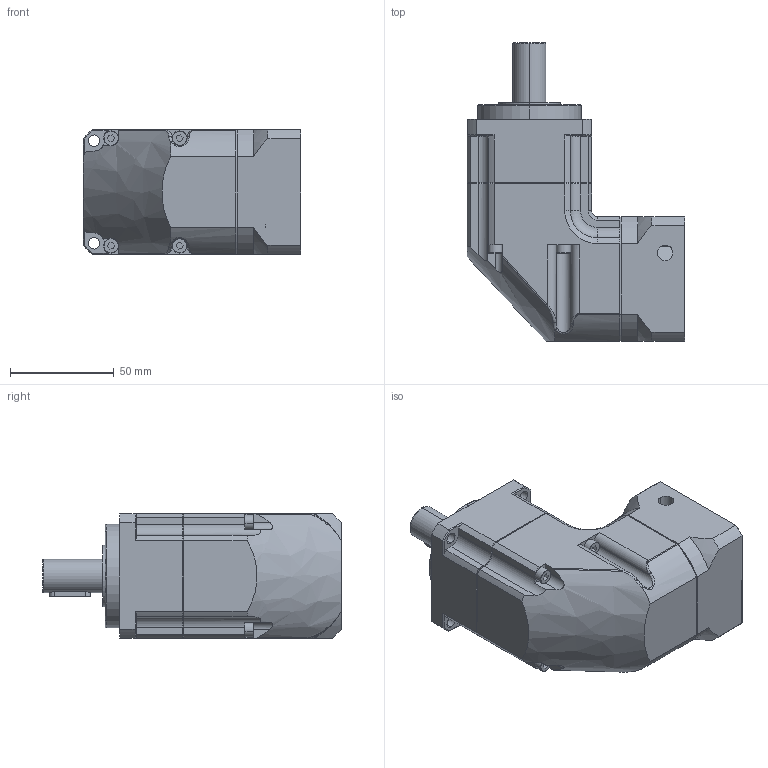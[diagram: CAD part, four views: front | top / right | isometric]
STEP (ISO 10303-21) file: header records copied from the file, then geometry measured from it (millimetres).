
FILE_DESCRIPTION (( 'STEP AP214' ), '1' );
FILE_NAME ('PXR60-L1.STEP', '2019-12-11T00:57:29', ( '微软用户' ), ( '微软中国' ), 'SwSTEP 2.0', 'SolidWorks 2014', '' );
FILE_SCHEMA (( 'AUTOMOTIVE_DESIGN' ));
Length unit declared in the file: millimetre
Products named in the file (8): GB／T70．1-2000内六角圆柱头螺钉M4×60_一级用; PXR60俋倛芞喘眊; 邧埴瑩 5x5x20; 囀鞠褒蹟佪-M4℅12; PD60俋倛芞坶踡遠-; PDR60俋倛芞蟀諉啣-; PX60俋倛芞奻裔啣_72T; PXR60-L1
Assembly tree (10 placements, depth 2):
  PXR60-L1
    PX60俋倛芞奻裔啣_72T
    PDR60俋倛芞蟀諉啣-
    PD60俋倛芞坶踡遠-
    囀鞠褒蹟佪-M4℅12
    邧埴瑩 5x5x20
    PXR60俋倛芞喘眊
    GB／T70．1-2000内六角圆柱头螺钉M4×60_一级用  x4
Bounding box: 105 x 143.9 x 60 mm (x, y, z)
Volume: 435924.9 mm3; surface area: 74559.3 mm2
Topology: 10 solids, 10 shells, 507 faces, 1218 edges, 747 vertices
Faces by surface type: cylinder 190, plane 182, cone 86, torus 32, bspline 13, sphere 4
Entity records: 14827 total; most frequent: CARTESIAN_POINT 3714, DIRECTION 2291, ORIENTED_EDGE 2128, EDGE_CURVE 1064, AXIS2_PLACEMENT_3D 898, VERTEX_POINT 669, EDGE_LOOP 517, LINE 495
